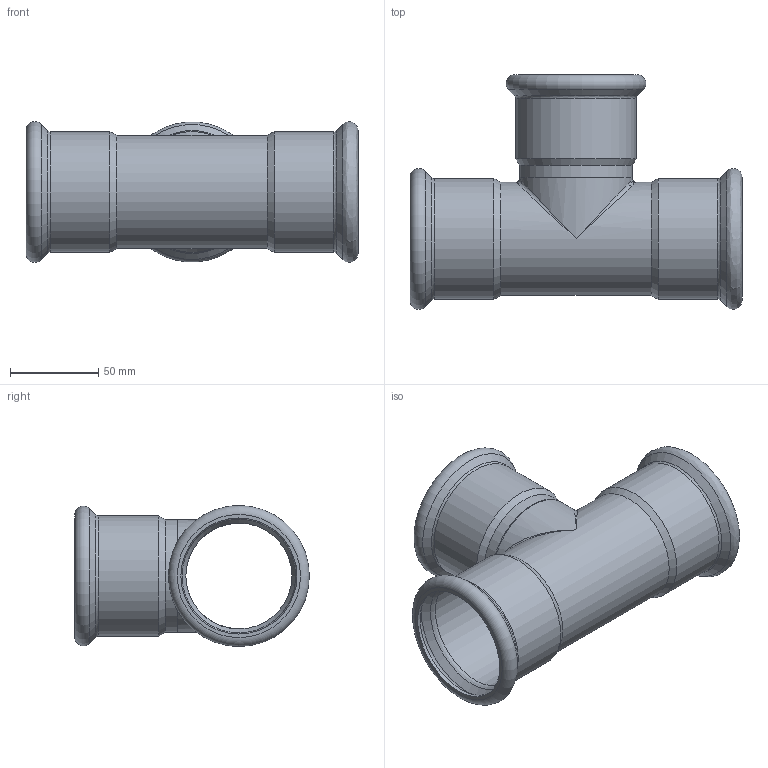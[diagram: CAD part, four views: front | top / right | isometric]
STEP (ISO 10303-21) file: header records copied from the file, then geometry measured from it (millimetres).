
FILE_DESCRIPTION((''),'2;1');
FILE_NAME('G:\Nirosan-Schmiedefeld\Technics\CAD\Bauteile VA\064\6913064(0).stp','2009-05-08T09:14:44',('herberg'),(''),'Autodesk Inventor 2009','Autodesk Inventor 2009','');
FILE_SCHEMA(('AUTOMOTIVE_DESIGN { 1 0 10303 214 1 1 1 1 }'));
Length unit declared in the file: millimetre
Products named in the file (3): 6913064(0); LM_6913064(0); HM_6924364(0)
Assembly tree (2 placements, depth 2):
  6913064(0)
    LM_6913064(0)
    HM_6924364(0)
Bounding box: 188 x 132.9 x 79.8 mm (x, y, z)
Volume: 107683.9 mm3; surface area: 109749.3 mm2
Topology: 2 solids, 2 shells, 51 faces, 109 edges, 57 vertices
Faces by surface type: bspline 21, cylinder 12, cone 8, plane 6, torus 4
Full cylindrical faces by diameter (mm): 60 x3, 64 x3, 64.4 x2, 65.7 x2, 68.4 x2
Entity records: 2363 total; most frequent: CARTESIAN_POINT 1469, DIRECTION 178, ORIENTED_EDGE 108, EDGE_LOOP 100, AXIS2_PLACEMENT_3D 89, EDGE_CURVE 54, FACE_OUTER_BOUND 51, ADVANCED_FACE 51
